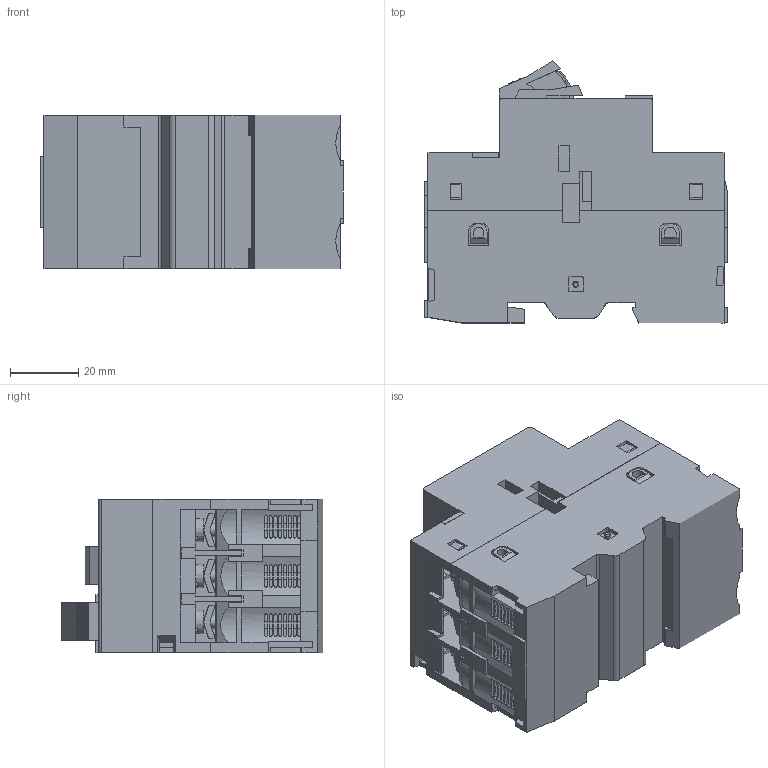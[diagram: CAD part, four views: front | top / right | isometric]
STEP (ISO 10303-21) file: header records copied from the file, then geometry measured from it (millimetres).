
FILE_DESCRIPTION (( 'STEP AP203' ), '1' );
FILE_NAME ('ÏÐÊ32.STEP', '2018-05-30T07:02:39', ( '' ), ( '' ), 'SwSTEP 2.0', 'SolidWorks 2018', '' );
FILE_SCHEMA (( 'CONFIG_CONTROL_DESIGN' ));
Length unit declared in the file: millimetre
Products named in the file (1): ﾏﾐﾊ32
Bounding box: 89 x 77 x 45 mm (x, y, z)
Volume: 206177 mm3; surface area: 39078.6 mm2
Topology: 9 solids, 10 shells, 1534 faces, 4179 edges, 2758 vertices
Faces by surface type: plane 1104, cylinder 286, bspline 100, cone 24, torus 20
Entity records: 53920 total; most frequent: CARTESIAN_POINT 15666, ORIENTED_EDGE 8358, DIRECTION 7173, EDGE_CURVE 4179, VECTOR 3139, LINE 3139, VERTEX_POINT 2758, AXIS2_PLACEMENT_3D 2017
